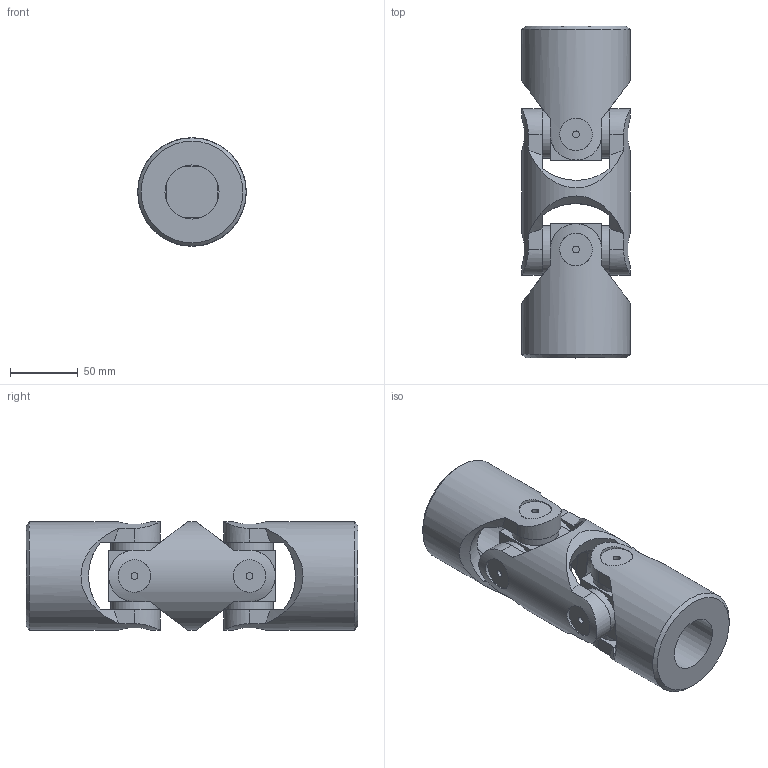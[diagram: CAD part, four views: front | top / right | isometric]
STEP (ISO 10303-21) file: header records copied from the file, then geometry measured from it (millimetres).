
FILE_DESCRIPTION(/* description */ (''),/* implementation_level */ '2;1');
FILE_NAME(/* name */ '\\SRV2016\Societa\Stefano\Disegni 3D\00Catalogo 3D\02Doppi GD-GBD\SG0D4000.stp',/* time_stamp */ '2021-11-23T16:02:28+01:00',/* author */ ('acquisti'),/* organization */ (''),/* preprocessor_version */ 'ST-DEVELOPER v15.6',/* originating_system */ 'Autodesk Inventor 2015',/* authorisation */ '');
FILE_SCHEMA (('AUTOMOTIVE_DESIGN { 1 0 10303 214 3 1 1 }'));
Length unit declared in the file: millimetre
Products named in the file (4): 8G MOD; 8G SFE; 8G MOS; Ø80_8GD-00_SG0D4000
Assembly tree (5 placements, depth 2):
  Ø80_8GD-00_SG0D4000
    8G MOD
    8G SFE  x2
    8G MOS  x2
Bounding box: 80 x 245 x 80 mm (x, y, z)
Volume: 773135.8 mm3; surface area: 125825.7 mm2
Topology: 5 solids, 5 shells, 137 faces, 327 edges, 220 vertices
Faces by surface type: plane 70, cylinder 41, cone 22, torus 4
Full cylindrical faces by diameter (mm): 5 x8, 24 x8, 35 x8, 40 x2, 47 x4, 80 x3
Entity records: 3424 total; most frequent: CARTESIAN_POINT 1334, ORIENTED_EDGE 398, DIRECTION 394, EDGE_CURVE 199, AXIS2_PLACEMENT_3D 173, VERTEX_POINT 153, EDGE_LOOP 140, FACE_OUTER_BOUND 94
